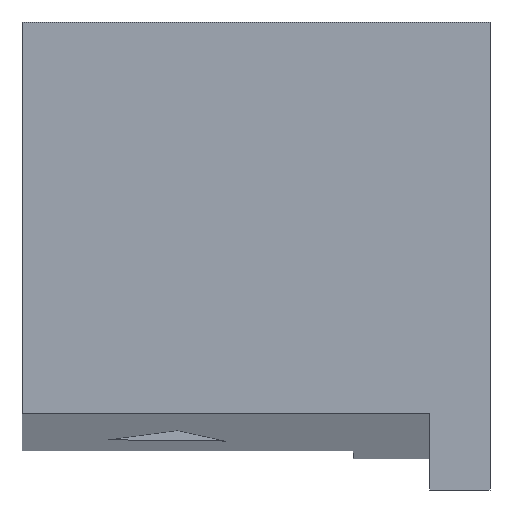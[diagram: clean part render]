
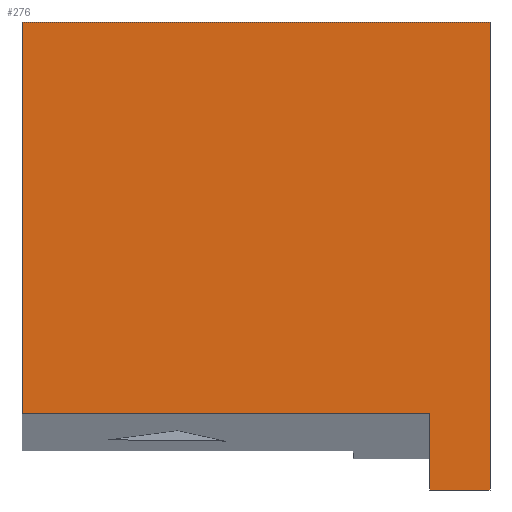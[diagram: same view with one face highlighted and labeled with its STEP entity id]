
A CAD part, front view. The second image highlights one B-rep face of the part: STEP entity #276.
In plain terms, the highlighted planar face has unit normal (0, -1, 0).
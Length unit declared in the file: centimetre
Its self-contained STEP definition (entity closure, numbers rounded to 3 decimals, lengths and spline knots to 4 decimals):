
#6 = VERTEX_POINT ( 'NONE', #355 ) ;
#9 = LINE ( 'NONE', #288, #233 ) ;
#16 = DIRECTION ( 'NONE',  ( -1., 0., 0. ) ) ;
#18 = VECTOR ( 'NONE', #690, 100. ) ;
#19 = EDGE_CURVE ( 'NONE', #282, #395, #9, .T. ) ;
#37 = CARTESIAN_POINT ( 'NONE',  ( 1000., 0., 0. ) ) ;
#44 = ORIENTED_EDGE ( 'NONE', *, *, #618, .F. ) ;
#91 = ORIENTED_EDGE ( 'NONE', *, *, #611, .T. ) ;
#131 = EDGE_CURVE ( 'NONE', #639, #6, #429, .T. ) ;
#141 = CARTESIAN_POINT ( 'NONE',  ( 871.0543, 0., 162.8663 ) ) ;
#155 = DIRECTION ( 'NONE',  ( 1., 0., 0. ) ) ;
#156 = ORIENTED_EDGE ( 'NONE', *, *, #19, .F. ) ;
#190 = CARTESIAN_POINT ( 'NONE',  ( 1000., 0., 1000. ) ) ;
#194 = VECTOR ( 'NONE', #545, 100. ) ;
#220 = LINE ( 'NONE', #458, #18 ) ;
#233 = VECTOR ( 'NONE', #236, 100. ) ;
#236 = DIRECTION ( 'NONE',  ( 0., 0., -1. ) ) ;
#246 = FACE_OUTER_BOUND ( 'NONE', #260, .T. ) ;
#256 = AXIS2_PLACEMENT_3D ( 'NONE', #716, #479, #722 ) ;
#260 = EDGE_LOOP ( 'NONE', ( #91, #44, #379, #352, #156, #567 ) ) ;
#276 = ADVANCED_FACE ( 'NONE', ( #246 ), #644, .F. ) ;
#282 = VERTEX_POINT ( 'NONE', #190 ) ;
#288 = CARTESIAN_POINT ( 'NONE',  ( 1000., 0., 1000. ) ) ;
#352 = ORIENTED_EDGE ( 'NONE', *, *, #625, .T. ) ;
#355 = CARTESIAN_POINT ( 'NONE',  ( 871.0543, 0., 162.8663 ) ) ;
#359 = EDGE_CURVE ( 'NONE', #456, #282, #671, .T. ) ;
#373 = VECTOR ( 'NONE', #711, 100. ) ;
#379 = ORIENTED_EDGE ( 'NONE', *, *, #131, .F. ) ;
#395 = VERTEX_POINT ( 'NONE', #37 ) ;
#422 = VECTOR ( 'NONE', #155, 100. ) ;
#429 = LINE ( 'NONE', #141, #194 ) ;
#456 = VERTEX_POINT ( 'NONE', #494 ) ;
#458 = CARTESIAN_POINT ( 'NONE',  ( 0., 0., 1000. ) ) ;
#473 = CARTESIAN_POINT ( 'NONE',  ( 0., 0., 0. ) ) ;
#476 = LINE ( 'NONE', #473, #373 ) ;
#479 = DIRECTION ( 'NONE',  ( 0., 1., 0. ) ) ;
#494 = CARTESIAN_POINT ( 'NONE',  ( 0., 0., 1000. ) ) ;
#525 = LINE ( 'NONE', #581, #664 ) ;
#545 = DIRECTION ( 'NONE',  ( 0., 0., 1. ) ) ;
#547 = CARTESIAN_POINT ( 'NONE',  ( 0., 0., 1000. ) ) ;
#567 = ORIENTED_EDGE ( 'NONE', *, *, #359, .F. ) ;
#581 = CARTESIAN_POINT ( 'NONE',  ( 871.0543, 0., 162.8663 ) ) ;
#591 = CARTESIAN_POINT ( 'NONE',  ( 871.0543, 0., 0. ) ) ;
#611 = EDGE_CURVE ( 'NONE', #456, #617, #220, .T. ) ;
#617 = VERTEX_POINT ( 'NONE', #694 ) ;
#618 = EDGE_CURVE ( 'NONE', #6, #617, #525, .T. ) ;
#625 = EDGE_CURVE ( 'NONE', #639, #395, #476, .T. ) ;
#639 = VERTEX_POINT ( 'NONE', #591 ) ;
#644 = PLANE ( 'NONE',  #256 ) ;
#664 = VECTOR ( 'NONE', #16, 100. ) ;
#671 = LINE ( 'NONE', #547, #422 ) ;
#690 = DIRECTION ( 'NONE',  ( 0., 0., -1. ) ) ;
#694 = CARTESIAN_POINT ( 'NONE',  ( 0., 0., 162.8663 ) ) ;
#711 = DIRECTION ( 'NONE',  ( 1., 0., 0. ) ) ;
#716 = CARTESIAN_POINT ( 'NONE',  ( 0., 0., 1000. ) ) ;
#722 = DIRECTION ( 'NONE',  ( 0., 0., 1. ) ) ;
